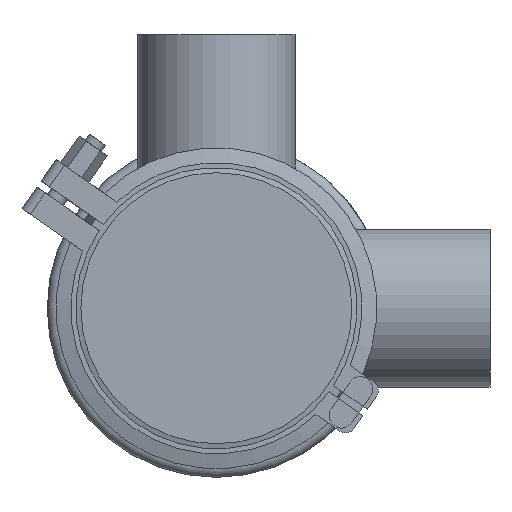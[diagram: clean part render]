
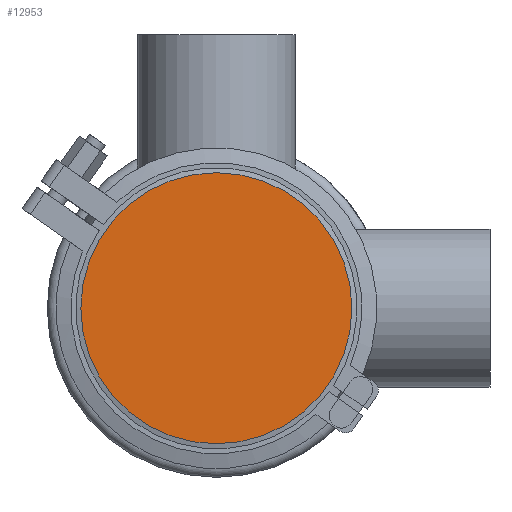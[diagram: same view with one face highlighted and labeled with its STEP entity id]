
A CAD part, front view. The second image highlights one B-rep face of the part: STEP entity #12953.
In plain terms, the highlighted planar face has unit normal (0, -1, 0).
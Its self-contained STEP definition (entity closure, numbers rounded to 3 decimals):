
#869 = DIRECTION ( 'NONE',  ( 0., 0., 1. ) ) ;
#932 = CARTESIAN_POINT ( 'NONE',  ( 0., 0., 54.5 ) ) ;
#4583 = AXIS2_PLACEMENT_3D ( 'NONE', #13707, #18414, #17022 ) ;
#6868 = AXIS2_PLACEMENT_3D ( 'NONE', #15349, #15247, #869 ) ;
#8805 = ORIENTED_EDGE ( 'NONE', *, *, #9751, .F. ) ;
#9751 = EDGE_CURVE ( 'NONE', #17427, #17427, #15717, .T. ) ;
#10331 = FACE_OUTER_BOUND ( 'NONE', #12614, .T. ) ;
#12614 = EDGE_LOOP ( 'NONE', ( #8805 ) ) ;
#12953 = ADVANCED_FACE ( 'NONE', ( #10331 ), #16905, .T. ) ;
#13707 = CARTESIAN_POINT ( 'NONE',  ( -54.5, 0., 0. ) ) ;
#15247 = DIRECTION ( 'NONE',  ( 0., 1., 0. ) ) ;
#15349 = CARTESIAN_POINT ( 'NONE',  ( 0., 0., 0. ) ) ;
#15717 = CIRCLE ( 'NONE', #6868, 54.5 ) ;
#16905 = PLANE ( 'NONE',  #4583 ) ;
#17022 = DIRECTION ( 'NONE',  ( 0., 0., -1. ) ) ;
#17427 = VERTEX_POINT ( 'NONE', #932 ) ;
#18414 = DIRECTION ( 'NONE',  ( 0., -1., 0. ) ) ;
